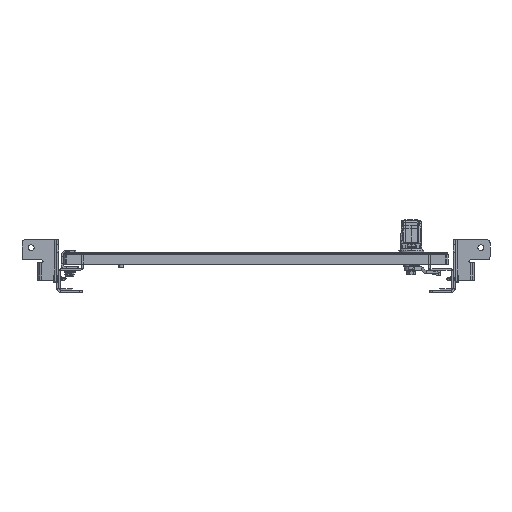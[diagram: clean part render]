
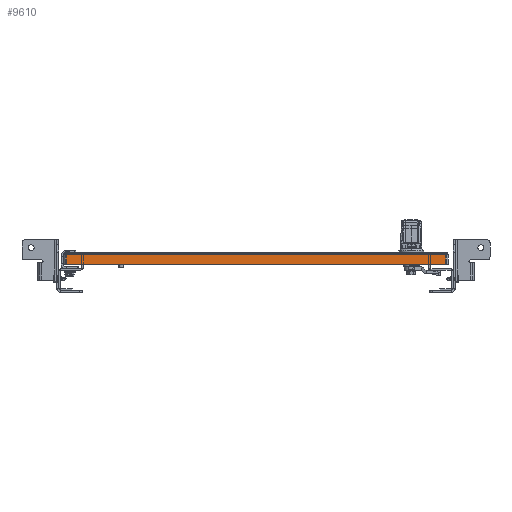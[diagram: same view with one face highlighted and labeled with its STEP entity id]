
A CAD part, front view. The second image highlights one B-rep face of the part: STEP entity #9610.
In plain terms, the highlighted planar face has unit normal (0, -1, 0).
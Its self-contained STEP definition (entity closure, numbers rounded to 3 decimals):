
#1900 = CARTESIAN_POINT ( 'NONE',  ( 234., -960., 0. ) ) ;
#2988 = VECTOR ( 'NONE', #51615, 1000. ) ;
#3995 = DIRECTION ( 'NONE',  ( -1., 0., 0. ) ) ;
#5080 = CARTESIAN_POINT ( 'NONE',  ( -234., -960., 12. ) ) ;
#7115 = CARTESIAN_POINT ( 'NONE',  ( 231., -960., 12. ) ) ;
#9610 = ADVANCED_FACE ( 'NONE', ( #38975 ), #44260, .F. ) ;
#11929 = DIRECTION ( 'NONE',  ( 0., 1., 0. ) ) ;
#17031 = LINE ( 'NONE', #34977, #21944 ) ;
#17489 = CARTESIAN_POINT ( 'NONE',  ( 234., -960., 15. ) ) ;
#20853 = CARTESIAN_POINT ( 'NONE',  ( -231., -960., 12. ) ) ;
#21944 = VECTOR ( 'NONE', #52312, 1000. ) ;
#22290 = VECTOR ( 'NONE', #55075, 1000. ) ;
#23060 = LINE ( 'NONE', #1900, #22290 ) ;
#25529 = CARTESIAN_POINT ( 'NONE',  ( 231., -960., 0. ) ) ;
#26351 = VERTEX_POINT ( 'NONE', #20853 ) ;
#27992 = LINE ( 'NONE', #5080, #57808 ) ;
#28995 = CARTESIAN_POINT ( 'NONE',  ( -231., -960., 15. ) ) ;
#29659 = ORIENTED_EDGE ( 'NONE', *, *, #32524, .T. ) ;
#29895 = CARTESIAN_POINT ( 'NONE',  ( -231., -960., 0. ) ) ;
#32408 = DIRECTION ( 'NONE',  ( -1., 0., 0. ) ) ;
#32524 = EDGE_CURVE ( 'NONE', #26351, #48107, #55998, .T. ) ;
#33046 = VERTEX_POINT ( 'NONE', #25529 ) ;
#34977 = CARTESIAN_POINT ( 'NONE',  ( 231., -960., 15. ) ) ;
#38196 = ORIENTED_EDGE ( 'NONE', *, *, #45926, .T. ) ;
#38975 = FACE_OUTER_BOUND ( 'NONE', #57457, .T. ) ;
#40924 = ORIENTED_EDGE ( 'NONE', *, *, #50550, .T. ) ;
#41510 = ORIENTED_EDGE ( 'NONE', *, *, #52816, .T. ) ;
#41541 = AXIS2_PLACEMENT_3D ( 'NONE', #17489, #11929, #3995 ) ;
#44260 = PLANE ( 'NONE',  #41541 ) ;
#45926 = EDGE_CURVE ( 'NONE', #48107, #33046, #23060, .T. ) ;
#48107 = VERTEX_POINT ( 'NONE', #29895 ) ;
#50550 = EDGE_CURVE ( 'NONE', #33046, #55065, #17031, .T. ) ;
#51615 = DIRECTION ( 'NONE',  ( 0., 0., -1. ) ) ;
#52312 = DIRECTION ( 'NONE',  ( 0., 0., 1. ) ) ;
#52816 = EDGE_CURVE ( 'NONE', #55065, #26351, #27992, .T. ) ;
#55065 = VERTEX_POINT ( 'NONE', #7115 ) ;
#55075 = DIRECTION ( 'NONE',  ( 1., 0., 0. ) ) ;
#55998 = LINE ( 'NONE', #28995, #2988 ) ;
#57457 = EDGE_LOOP ( 'NONE', ( #38196, #40924, #41510, #29659 ) ) ;
#57808 = VECTOR ( 'NONE', #32408, 1000. ) ;
